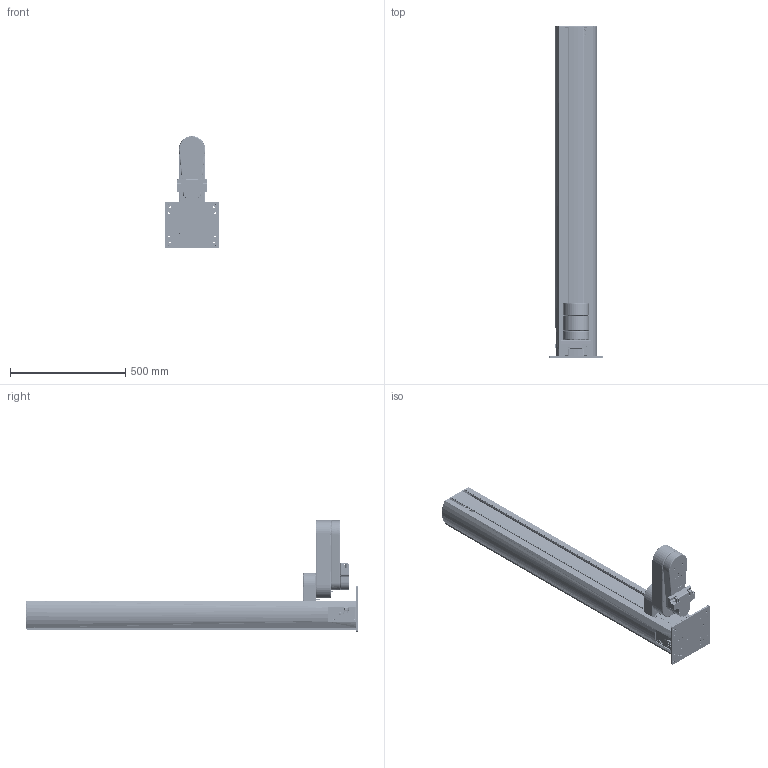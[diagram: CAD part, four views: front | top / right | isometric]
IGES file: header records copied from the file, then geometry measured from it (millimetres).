
Start section: SolidWorks IGES file using analytic representation for surfaces
Global section: file name: C:\Users\paul\Documents\CIMechatronic\OneDrive - Channel Islands Mechatronic\Precise Automation\PF400\ShellEXT ProdC\Assy, Main, ProdC, Precise 1160 ShellEXT, PF400.IGS; native system: SolidWorks 2016; preprocessor: SolidWorks 2016; author: paul; date: 161012.093410; units: millimetre
Bounding box: 235.1 x 1438.95 x 484 mm (x, y, z)
Surface area: 3157138.4 mm2 (no closed solid volume)
Topology: 0 solids, 0 shells, 11566 faces, 153944 edges, 153737 vertices
Faces by surface type: revolution 6131, bspline 5435
